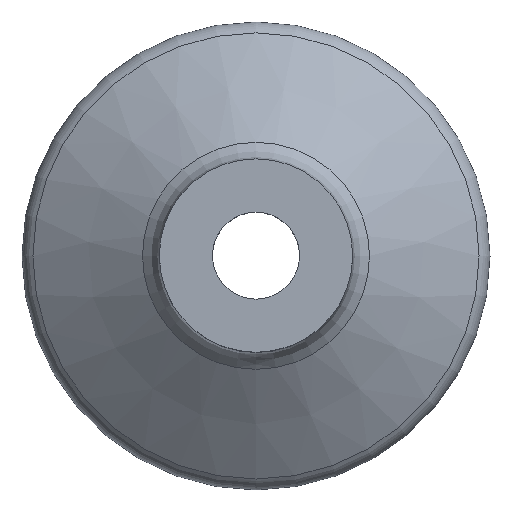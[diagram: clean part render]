
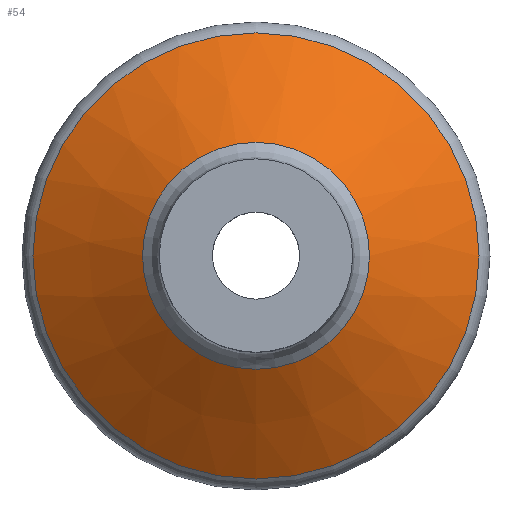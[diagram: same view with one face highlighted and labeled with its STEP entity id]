
A CAD part, top view. The second image highlights one B-rep face of the part: STEP entity #54.
In plain terms, the highlighted conical face has half-angle 55.577 degrees and reference radius 11.535 mm.
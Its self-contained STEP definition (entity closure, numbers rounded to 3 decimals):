
#54=ADVANCED_FACE('',(#117,#118),#119,.T.);
#117=FACE_OUTER_BOUND('',#188,.T.);
#118=FACE_BOUND('',#189,.T.);
#119=CONICAL_SURFACE('',#190,11.535,0.97);
#188=EDGE_LOOP('',(#267));
#189=EDGE_LOOP('',(#268));
#190=AXIS2_PLACEMENT_3D('',#269,#270,#271);
#267=ORIENTED_EDGE('',*,*,#329,.T.);
#268=ORIENTED_EDGE('',*,*,#334,.F.);
#269=CARTESIAN_POINT('',(0.,0.,7.668));
#270=DIRECTION('',(0.0,0.,-1.0));
#271=DIRECTION('',(0.0,1.0,0.));
#329=EDGE_CURVE('',#366,#366,#367,.T.);
#334=EDGE_CURVE('',#374,#374,#375,.T.);
#366=VERTEX_POINT('',#414);
#367=CIRCLE('',#415,11.535);
#374=VERTEX_POINT('',#422);
#375=CIRCLE('',#423,5.869);
#414=CARTESIAN_POINT('',(0.,-11.535,7.668));
#415=AXIS2_PLACEMENT_3D('',#463,#464,#465);
#422=CARTESIAN_POINT('',(0.,-5.869,11.55));
#423=AXIS2_PLACEMENT_3D('',#472,#473,#474);
#463=CARTESIAN_POINT('',(0.,0.,7.668));
#464=DIRECTION('',(0.0,0.,1.0));
#465=DIRECTION('',(0.0,-1.0,0.));
#472=CARTESIAN_POINT('',(0.,0.,11.55));
#473=DIRECTION('',(0.0,0.,1.0));
#474=DIRECTION('',(0.0,-1.0,0.));
